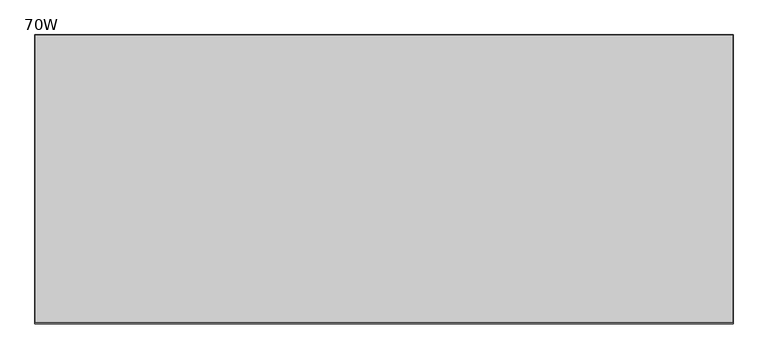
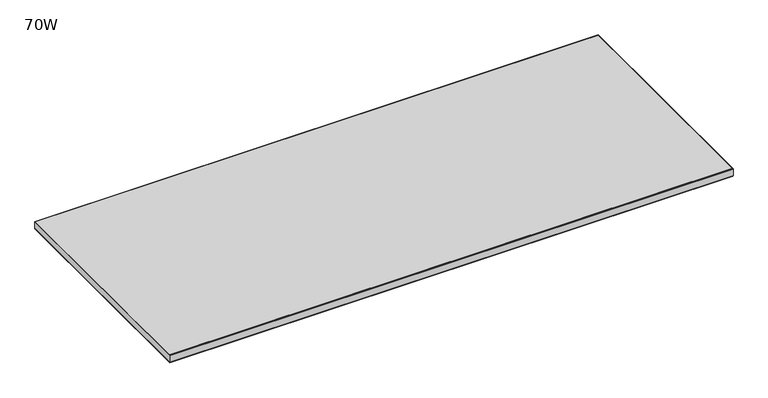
"""IFC4 building model written with IfcOpenShell, lengths in millimetres: furniture geometry, Steelcase - Ology - Desk Electric - Rectangular - 29D : 70W."""

from ifc_helpers import new_model, si_unit, frame, origin, place, context, project, spatial, polyline, outline, extrude, faceted_brep, source, transform, mapped, element, save


def furniture_70w_bd9f5dd2(model_context):
    return source(origin(), model_context, "Body", "SolidModel", [
        faceted_brep([(-736.6, -451.599999, 716.1529564), (-736.3794226, -451.3794217, 714.902), (1041.1794226, -451.3794217, 714.902), (1041.4, -451.599999, 716.1529564), (1041.4, -451.599999, 738.6320349), (-736.6, -451.599999, 738.6320349), (1041.221518, -451.4215171, 739.902), (-736.421518, -451.4215171, 739.902), (1041.1794226, 284.77935, 714.902), (1041.4, 284.9999273, 716.1529564), (1041.4, 284.9999273, 738.6320349), (1041.221518, 284.8214454, 739.902), (1040.384001, 283.9839283, 739.902), (1040.384001, 283.9839283, 714.902), (1040.384001, -448.5527419, 714.902), (1040.384001, -448.5527419, 739.902), (-736.3794226, 284.77935, 714.902), (-736.6, 284.9999273, 716.1529564), (-736.6, 284.9999273, 738.6320349), (-736.421518, 284.8214454, 739.902), (-735.584001, 283.9839283, 739.902), (-735.584001, 283.9839283, 714.902), (-735.584001, -448.5527419, 714.902), (-735.584001, -448.5527419, 739.902)], [[[0, 1, 2, 3]], [[0, 3, 4, 5]], [[5, 4, 6, 7]], [[3, 2, 8, 9]], [[4, 3, 9, 10]], [[6, 4, 10, 11]], [[12, 13, 14, 15]], [[9, 8, 16, 17]], [[10, 9, 17, 18]], [[11, 10, 18, 19]], [[13, 12, 20, 21]], [[2, 1, 16, 8], [13, 21, 22, 14]], [[1, 0, 17, 16]], [[0, 5, 18, 17]], [[5, 7, 19, 18]], [[7, 6, 11, 19], [20, 12, 15, 23]], [[21, 20, 23, 22]], [[14, 22, 23, 15]]]),
        extrude(outline(polyline([(1040.384001, 283.9839283), (1040.384001, -448.5527419), (-735.584001, -448.5527419), (-735.584001, 283.9839283), (1040.384001, 283.9839283)])), frame((0.0, 0.0, 714.902), z_axis=(0.0, 0.0, 1.0), x_axis=(1.0, 0.0, 0.0)), (0.0, 0.0, 1.0), 25.0),
    ])


if __name__ == "__main__":
    model = new_model("IFC4")
    model_context = context("Model", 3, world=origin())
    ifc_project = project(units=[si_unit("LENGTHUNIT", "METRE", prefix="MILLI")], contexts=[model_context])
    site = spatial("IfcSite", under=ifc_project)
    building = spatial("IfcBuilding", under=site)
    placement = place(None, origin())
    furniture_70w_shape = furniture_70w_bd9f5dd2(model_context)
    element("IfcFurniture", 1, ObjectType="Steelcase - Ology - Desk Electric - Rectangular - 29D : 70W", at=placement, inside=building, context=model_context, shape_type="MappedRepresentation", body=[
        mapped(furniture_70w_shape, transform((0.0, 0.0, 0.0), x_axis=(1.0, 0.0, 0.0), y_axis=(0.0, 1.0, 0.0), z_axis=(0.0, 0.0, 1.0))),
    ])
    save(model, "model.ifc")
